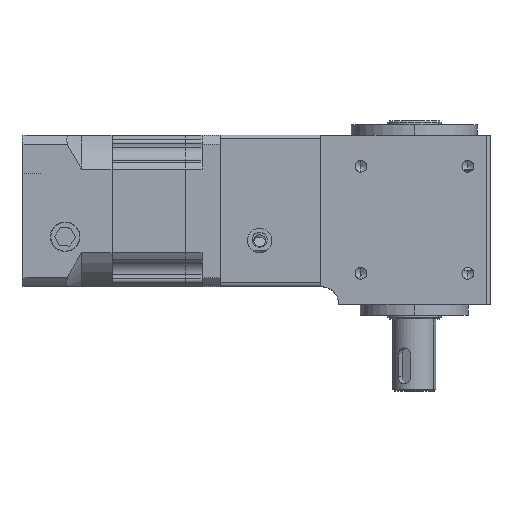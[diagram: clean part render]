
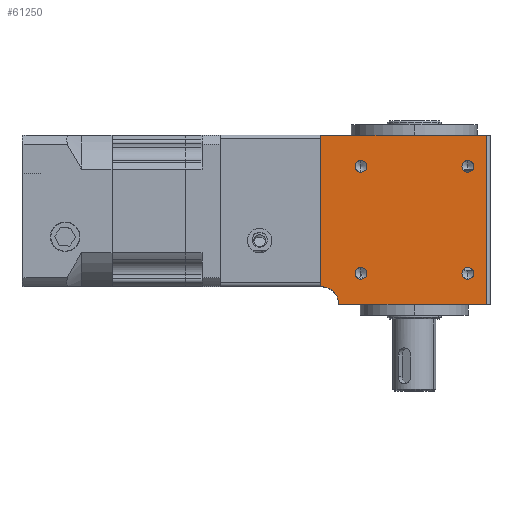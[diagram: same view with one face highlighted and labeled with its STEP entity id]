
A CAD part, top view. The second image highlights one B-rep face of the part: STEP entity #61250.
In plain terms, the highlighted planar face has unit normal (0, 0, 1).
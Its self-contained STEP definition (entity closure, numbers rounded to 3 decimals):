
#141 = DIRECTION ( 'NONE',  ( 0., 0., 1. ) ) ;
#444 = ORIENTED_EDGE ( 'NONE', *, *, #43299, .F. ) ;
#587 = VERTEX_POINT ( 'NONE', #48197 ) ;
#799 = DIRECTION ( 'NONE',  ( 1., 0., 0. ) ) ;
#1060 = VERTEX_POINT ( 'NONE', #23042 ) ;
#1162 = DIRECTION ( 'NONE',  ( 1., 0., 0. ) ) ;
#2040 = AXIS2_PLACEMENT_3D ( 'NONE', #3286, #53047, #16293 ) ;
#2168 = AXIS2_PLACEMENT_3D ( 'NONE', #7071, #57436, #62059 ) ;
#2761 = AXIS2_PLACEMENT_3D ( 'NONE', #47217, #31458, #799 ) ;
#3286 = CARTESIAN_POINT ( 'NONE',  ( 11.651, 17.349, 21. ) ) ;
#3749 = CARTESIAN_POINT ( 'NONE',  ( 50., 0., 21. ) ) ;
#4414 = AXIS2_PLACEMENT_3D ( 'NONE', #12040, #12369, #63066 ) ;
#4830 = FACE_BOUND ( 'NONE', #17067, .T. ) ;
#5196 = VERTEX_POINT ( 'NONE', #51893 ) ;
#5212 = AXIS2_PLACEMENT_3D ( 'NONE', #51557, #26892, #1162 ) ;
#6314 = CARTESIAN_POINT ( 'NONE',  ( 42.999, 17.349, 21. ) ) ;
#6471 = EDGE_CURVE ( 'NONE', #33477, #1060, #20628, .T. ) ;
#6658 = EDGE_CURVE ( 'NONE', #40902, #59654, #59750, .T. ) ;
#6795 = ORIENTED_EDGE ( 'NONE', *, *, #46554, .F. ) ;
#7071 = CARTESIAN_POINT ( 'NONE',  ( 41.349, 17.349, 21. ) ) ;
#7745 = DIRECTION ( 'NONE',  ( 0., -1., 0. ) ) ;
#8190 = EDGE_LOOP ( 'NONE', ( #54644, #35689 ) ) ;
#8946 = DIRECTION ( 'NONE',  ( 1., 0., 0. ) ) ;
#11084 = PLANE ( 'NONE',  #44644 ) ;
#11269 = DIRECTION ( 'NONE',  ( 1., 0., 0. ) ) ;
#12040 = CARTESIAN_POINT ( 'NONE',  ( 41.349, -12.349, 21. ) ) ;
#12369 = DIRECTION ( 'NONE',  ( 0., 0., 1. ) ) ;
#15310 = CARTESIAN_POINT ( 'NONE',  ( 53., -23.5, 21. ) ) ;
#15320 = CARTESIAN_POINT ( 'NONE',  ( 11.651, -12.349, 21. ) ) ;
#16236 = CARTESIAN_POINT ( 'NONE',  ( 53., 22.5, 21. ) ) ;
#16293 = DIRECTION ( 'NONE',  ( 1., 0., 0. ) ) ;
#16635 = EDGE_CURVE ( 'NONE', #37362, #46599, #62342, .T. ) ;
#17067 = EDGE_LOOP ( 'NONE', ( #17126, #50483 ) ) ;
#17100 = EDGE_CURVE ( 'NONE', #5196, #17662, #48229, .T. ) ;
#17126 = ORIENTED_EDGE ( 'NONE', *, *, #19220, .F. ) ;
#17662 = VERTEX_POINT ( 'NONE', #61265 ) ;
#19220 = EDGE_CURVE ( 'NONE', #57062, #587, #59081, .T. ) ;
#19285 = CARTESIAN_POINT ( 'NONE',  ( 3., 0., 21. ) ) ;
#20628 = CIRCLE ( 'NONE', #36410, 1.65 ) ;
#20719 = VERTEX_POINT ( 'NONE', #47847 ) ;
#21372 = ORIENTED_EDGE ( 'NONE', *, *, #61530, .F. ) ;
#21636 = ORIENTED_EDGE ( 'NONE', *, *, #16635, .F. ) ;
#22183 = CIRCLE ( 'NONE', #2168, 1.65 ) ;
#23042 = CARTESIAN_POINT ( 'NONE',  ( 39.699, 17.349, 21. ) ) ;
#23568 = LINE ( 'NONE', #19285, #23933 ) ;
#23838 = EDGE_LOOP ( 'NONE', ( #444, #64436 ) ) ;
#23933 = VECTOR ( 'NONE', #43635, 1000. ) ;
#26573 = CARTESIAN_POINT ( 'NONE',  ( 41.349, 17.349, 21. ) ) ;
#26846 = ORIENTED_EDGE ( 'NONE', *, *, #50452, .T. ) ;
#26892 = DIRECTION ( 'NONE',  ( 0., 0., 1. ) ) ;
#30536 = FACE_OUTER_BOUND ( 'NONE', #57313, .T. ) ;
#30790 = DIRECTION ( 'NONE',  ( 1., 0., 0. ) ) ;
#31182 = CIRCLE ( 'NONE', #2761, 1.65 ) ;
#31458 = DIRECTION ( 'NONE',  ( 0., 0., 1. ) ) ;
#33477 = VERTEX_POINT ( 'NONE', #6314 ) ;
#33648 = CIRCLE ( 'NONE', #5212, 1.65 ) ;
#34616 = EDGE_CURVE ( 'NONE', #1060, #33477, #22183, .T. ) ;
#35237 = CARTESIAN_POINT ( 'NONE',  ( 3., -23.5, 21. ) ) ;
#35395 = DIRECTION ( 'NONE',  ( 1., 0., 0. ) ) ;
#35689 = ORIENTED_EDGE ( 'NONE', *, *, #34616, .F. ) ;
#36321 = CARTESIAN_POINT ( 'NONE',  ( 13.301, -12.349, 21. ) ) ;
#36410 = AXIS2_PLACEMENT_3D ( 'NONE', #26573, #41701, #61786 ) ;
#37362 = VERTEX_POINT ( 'NONE', #63039 ) ;
#38044 = VERTEX_POINT ( 'NONE', #57184 ) ;
#38140 = AXIS2_PLACEMENT_3D ( 'NONE', #47315, #62493, #42075 ) ;
#38417 = EDGE_CURVE ( 'NONE', #587, #57062, #31182, .T. ) ;
#38506 = VECTOR ( 'NONE', #35395, 1000. ) ;
#39740 = AXIS2_PLACEMENT_3D ( 'NONE', #49770, #43847, #8946 ) ;
#39960 = EDGE_CURVE ( 'NONE', #40902, #38044, #23568, .T. ) ;
#40171 = ORIENTED_EDGE ( 'NONE', *, *, #17100, .F. ) ;
#40406 = DIRECTION ( 'NONE',  ( 0., 0., -1. ) ) ;
#40902 = VERTEX_POINT ( 'NONE', #35237 ) ;
#41051 = CARTESIAN_POINT ( 'NONE',  ( 53., -23.5, 21. ) ) ;
#41389 = FACE_BOUND ( 'NONE', #61393, .T. ) ;
#41701 = DIRECTION ( 'NONE',  ( 0., 0., 1. ) ) ;
#42075 = DIRECTION ( 'NONE',  ( 1., 0., 0. ) ) ;
#43299 = EDGE_CURVE ( 'NONE', #50609, #20719, #60965, .T. ) ;
#43635 = DIRECTION ( 'NONE',  ( 0., 1., 0. ) ) ;
#43847 = DIRECTION ( 'NONE',  ( 0., 0., -1. ) ) ;
#44396 = ORIENTED_EDGE ( 'NONE', *, *, #39960, .F. ) ;
#44644 = AXIS2_PLACEMENT_3D ( 'NONE', #41051, #40406, #45971 ) ;
#45838 = LINE ( 'NONE', #16236, #59970 ) ;
#45971 = DIRECTION ( 'NONE',  ( 0., -1., 0. ) ) ;
#46554 = EDGE_CURVE ( 'NONE', #38044, #5196, #45838, .T. ) ;
#46599 = VERTEX_POINT ( 'NONE', #36321 ) ;
#47217 = CARTESIAN_POINT ( 'NONE',  ( 41.349, -12.349, 21. ) ) ;
#47315 = CARTESIAN_POINT ( 'NONE',  ( 11.651, -12.349, 21. ) ) ;
#47666 = VECTOR ( 'NONE', #7745, 1000. ) ;
#47847 = CARTESIAN_POINT ( 'NONE',  ( 10.001, 17.349, 21. ) ) ;
#48197 = CARTESIAN_POINT ( 'NONE',  ( 39.699, -12.349, 21. ) ) ;
#48229 = LINE ( 'NONE', #3749, #47666 ) ;
#49770 = CARTESIAN_POINT ( 'NONE',  ( 50., -23.5, 21. ) ) ;
#49838 = CARTESIAN_POINT ( 'NONE',  ( 45., -23.5, 21. ) ) ;
#50452 = EDGE_CURVE ( 'NONE', #59654, #17662, #62876, .T. ) ;
#50483 = ORIENTED_EDGE ( 'NONE', *, *, #38417, .F. ) ;
#50609 = VERTEX_POINT ( 'NONE', #52025 ) ;
#50941 = FACE_BOUND ( 'NONE', #8190, .T. ) ;
#51557 = CARTESIAN_POINT ( 'NONE',  ( 11.651, 17.349, 21. ) ) ;
#51893 = CARTESIAN_POINT ( 'NONE',  ( 50., 22.5, 21. ) ) ;
#52025 = CARTESIAN_POINT ( 'NONE',  ( 13.301, 17.349, 21. ) ) ;
#52670 = EDGE_CURVE ( 'NONE', #20719, #50609, #33648, .T. ) ;
#53047 = DIRECTION ( 'NONE',  ( 0., 0., 1. ) ) ;
#54284 = CARTESIAN_POINT ( 'NONE',  ( 42.999, -12.349, 21. ) ) ;
#54644 = ORIENTED_EDGE ( 'NONE', *, *, #6471, .F. ) ;
#56184 = FACE_BOUND ( 'NONE', #23838, .T. ) ;
#56296 = CIRCLE ( 'NONE', #63654, 1.65 ) ;
#57062 = VERTEX_POINT ( 'NONE', #54284 ) ;
#57184 = CARTESIAN_POINT ( 'NONE',  ( 3., 22.5, 21. ) ) ;
#57313 = EDGE_LOOP ( 'NONE', ( #6795, #44396, #60410, #26846, #40171 ) ) ;
#57436 = DIRECTION ( 'NONE',  ( 0., 0., 1. ) ) ;
#59081 = CIRCLE ( 'NONE', #4414, 1.65 ) ;
#59654 = VERTEX_POINT ( 'NONE', #49838 ) ;
#59750 = LINE ( 'NONE', #15310, #38506 ) ;
#59970 = VECTOR ( 'NONE', #11269, 1000. ) ;
#60410 = ORIENTED_EDGE ( 'NONE', *, *, #6658, .T. ) ;
#60965 = CIRCLE ( 'NONE', #2040, 1.65 ) ;
#61250 = ADVANCED_FACE ( 'NONE', ( #50941, #4830, #41389, #56184, #30536 ), #11084, .F. ) ;
#61265 = CARTESIAN_POINT ( 'NONE',  ( 50., -18.5, 21. ) ) ;
#61393 = EDGE_LOOP ( 'NONE', ( #21372, #21636 ) ) ;
#61530 = EDGE_CURVE ( 'NONE', #46599, #37362, #56296, .T. ) ;
#61786 = DIRECTION ( 'NONE',  ( 1., 0., 0. ) ) ;
#62059 = DIRECTION ( 'NONE',  ( 1., 0., 0. ) ) ;
#62342 = CIRCLE ( 'NONE', #38140, 1.65 ) ;
#62493 = DIRECTION ( 'NONE',  ( 0., 0., 1. ) ) ;
#62876 = CIRCLE ( 'NONE', #39740, 5. ) ;
#63039 = CARTESIAN_POINT ( 'NONE',  ( 10.001, -12.349, 21. ) ) ;
#63066 = DIRECTION ( 'NONE',  ( 1., 0., 0. ) ) ;
#63654 = AXIS2_PLACEMENT_3D ( 'NONE', #15320, #141, #30790 ) ;
#64436 = ORIENTED_EDGE ( 'NONE', *, *, #52670, .F. ) ;
